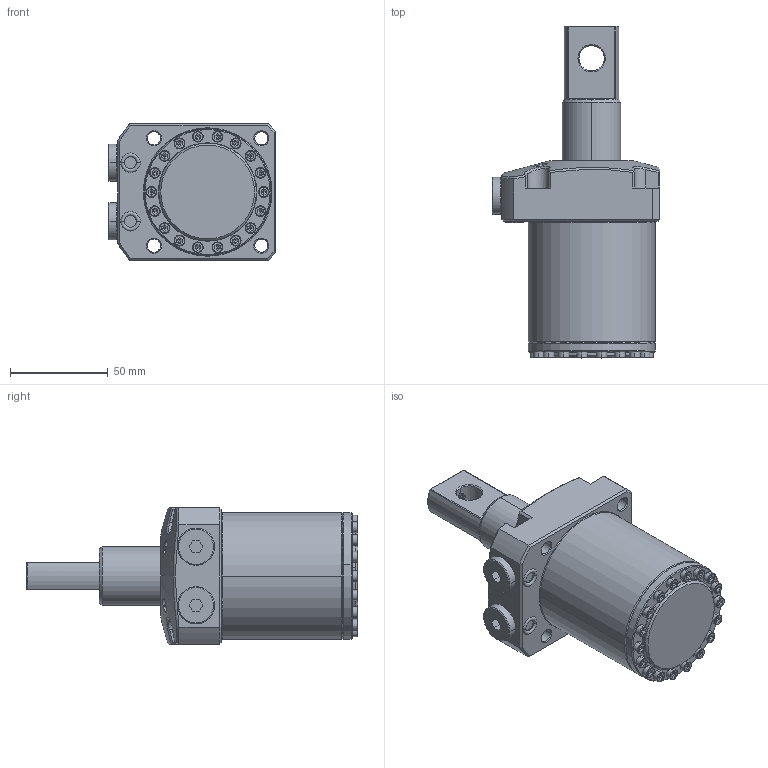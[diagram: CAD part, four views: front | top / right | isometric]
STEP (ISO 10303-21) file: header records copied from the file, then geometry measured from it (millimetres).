
FILE_DESCRIPTION((''),'2;1');
FILE_NAME('SIMP_GENERIC_SWING_CYD_65_PIN_ASM','2023-04-16T14:31:46',('Design 2'),(''),'CREO PARAMETRIC BY PTC INC, 2020053','CREO PARAMETRIC BY PTC INC, 2020053','');
FILE_SCHEMA(('CONFIG_CONTROL_DESIGN'));
Length unit declared in the file: millimetre
Products named in the file (13): BODY___; BODY_TOP_FLG____ASM; PIN_PISTON_; PISTON_ASM____ASM; SWINGER_ARM___; SWINGER_ARM_ASM____ASM; ISHCS03X10_; 1____; 2____; HALDER_SEALING-PLUG-228800_00__ASM; STATIC-O-RING-10X2S_; G-1-4_CLOSE_PLUG_; SIMP_GENERIC_SWING_CYD_65_PIN_ASM
Assembly tree (32 placements, depth 3):
  SIMP_GENERIC_SWING_CYD_65_PIN_ASM
    BODY_TOP_FLG____ASM
      BODY___
    PISTON_ASM____ASM
      PIN_PISTON_
    SWINGER_ARM_ASM____ASM
      SWINGER_ARM___
    ISHCS03X10_  x18
    HALDER_SEALING-PLUG-228800_00__ASM  x2
      1____
      2____
    STATIC-O-RING-10X2S_  x2
    G-1-4_CLOSE_PLUG_  x2
Bounding box: 86 x 169.9 x 70 mm (x, y, z)
Volume: 396484.6 mm3; surface area: 72422.9 mm2
Topology: 29 solids, 29 shells, 1131 faces, 2480 edges, 1423 vertices
Faces by surface type: plane 370, cylinder 338, cone 330, torus 48, bspline 39, sphere 6
Entity records: 18523 total; most frequent: CARTESIAN_POINT 6392, DIRECTION 2553, ORIENTED_EDGE 2372, EDGE_CURVE 1186, AXIS2_PLACEMENT_3D 1009, VERTEX_POINT 707, EDGE_LOOP 607, VECTOR 535
